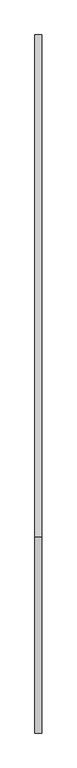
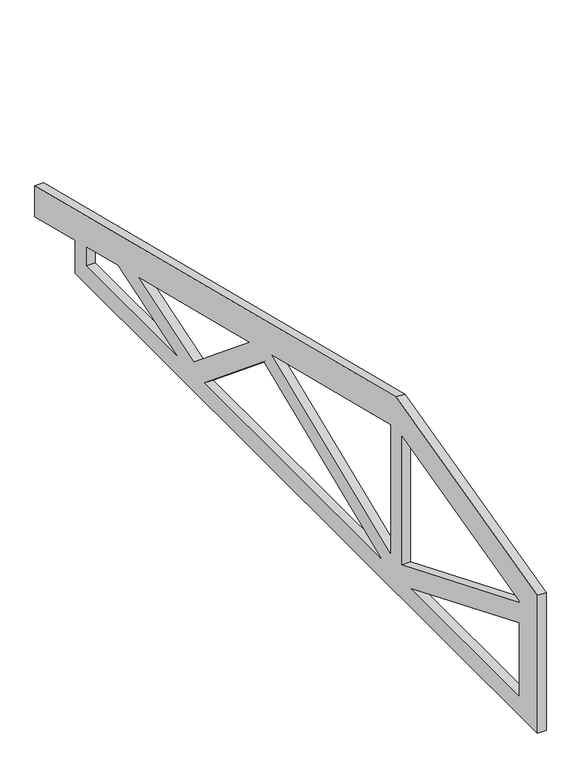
"""IFC4 building model written with IfcOpenShell, lengths in millimetres: beam geometry, Structural Framing Roof w/ Heel1 : Structural Framing Roof w/ Heel."""

from ifc_helpers import new_model, si_unit, frame, origin, place, context, project, spatial, polyline, outline, extrude, source, transform, mapped, element, save


def beam_ebf6557f(model_context):
    return source(origin(), model_context, "Body", "SweptSolid", [
        extrude(outline(polyline([(910.1349287, 7001.999464), (3653.3349287, 6316.199464), (3653.3349287, 6172.2), (3348.5349287, 6248.4), (3348.5349287, 6096.0), (-163.0150713, 6096.0), (-163.0150713, 6733.711964), (910.1349287, 7001.999464)]), holes=[polyline([(-23.3150713, 6624.6375), (-23.3150713, 6618.0313616), (865.6849287, 6251.3188616), (865.6849287, 6846.8875), (-23.3150713, 6624.6375)]), polyline([(-23.3150713, 6521.8648884), (-23.3150713, 6184.9), (793.5695066, 6184.9), (-23.3150713, 6521.8648884)]), polyline([(954.5849287, 6251.3188616), (1853.5564584, 6622.1446176), (954.5849287, 6846.8875), (954.5849287, 6251.3188616)]), polyline([(1026.7003508, 6184.9), (2364.2870491, 6184.9), (1918.4248164, 6552.736342), (1026.7003508, 6184.9)]), polyline([(2577.9460027, 6184.9), (3259.6349287, 6184.9), (3259.6349287, 6270.625), (3023.4194488, 6329.67887), (2577.9460027, 6184.9)]), polyline([(2860.8504087, 6370.32113), (2026.3514516, 6578.9458693), (2443.6009301, 6234.7150495), (2860.8504087, 6370.32113)])]), frame((-13266.0678637, 0.0, 0.0), z_axis=(1.0, 0.0, 0.0), x_axis=(0.0, 1.0, 0.0)), (0.0, 0.0, 1.0), 38.1),
    ])


if __name__ == "__main__":
    model = new_model("IFC4")
    model_context = context("Model", 3, world=origin())
    ifc_project = project(units=[si_unit("LENGTHUNIT", "METRE", prefix="MILLI")], contexts=[model_context])
    site = spatial("IfcSite", under=ifc_project)
    building = spatial("IfcBuilding", under=site)
    placement = place(None, origin())
    beam_shape = beam_ebf6557f(model_context)
    element("IfcBeam", 1, ObjectType="Structural Framing Roof w/ Heel1 : Structural Framing Roof w/ Heel", at=placement, inside=building, context=model_context, shape_type="MappedRepresentation", body=[
        mapped(beam_shape, transform((0.0, 0.0, 0.0), x_axis=(1.0, 0.0, 0.0), y_axis=(0.0, 1.0, 0.0), z_axis=(0.0, 0.0, 1.0))),
    ])
    save(model, "model.ifc")
